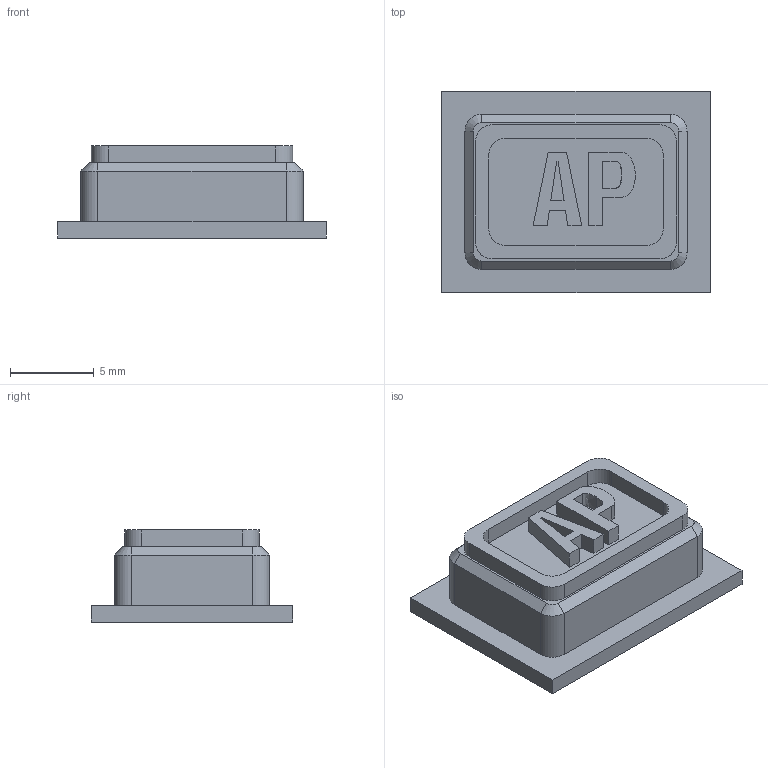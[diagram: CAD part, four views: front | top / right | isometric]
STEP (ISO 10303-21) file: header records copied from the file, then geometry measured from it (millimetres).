
FILE_DESCRIPTION(('FreeCAD Model'),'2;1');
FILE_NAME('E:/CAD Designs/Garmin/Final/CAD files/STEP/AP.step', '2021-02-27T12:54:01',('Author'),(''), 'Open CASCADE STEP processor 7.3','FreeCAD','Unknown');
FILE_SCHEMA(('AUTOMOTIVE_DESIGN { 1 0 10303 214 1 1 1 1 }'));
Length unit declared in the file: millimetre
Products named in the file (2): Body; Extrude
Bounding box: 16 x 12 x 5.5 mm (x, y, z)
Volume: 655.5 mm3; surface area: 714.1 mm2
Topology: 3 solids, 3 shells, 75 faces, 190 edges, 124 vertices
Faces by surface type: plane 49, cylinder 12, extrusion 10, cone 4
Entity records: 4799 total; most frequent: CARTESIAN_POINT 924, DIRECTION 691, VECTOR 488, LINE 478, ORIENTED_EDGE 380, PCURVE 380, DEFINITIONAL_REPRESENTATION 380, EDGE_CURVE 190
